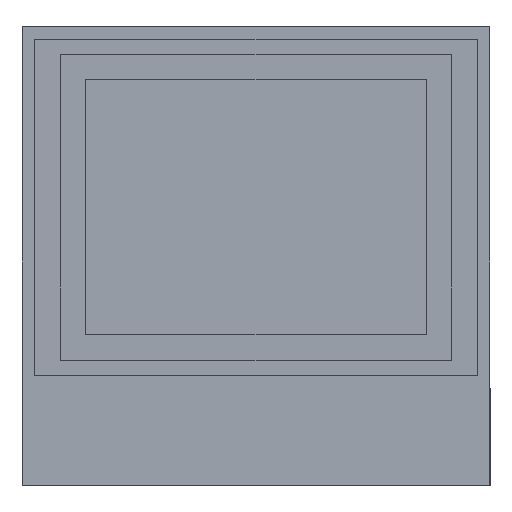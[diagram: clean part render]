
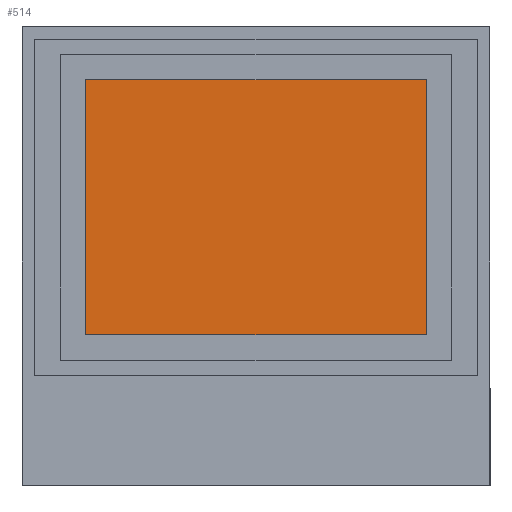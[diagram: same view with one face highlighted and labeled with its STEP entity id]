
A CAD part, top view. The second image highlights one B-rep face of the part: STEP entity #514.
In plain terms, the highlighted planar face has unit normal (0, 0, 1).
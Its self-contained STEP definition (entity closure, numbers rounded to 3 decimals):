
#7 = CARTESIAN_POINT ( 'NONE',  ( -6.71, 6.95, 1.26 ) ) ;
#18 = CARTESIAN_POINT ( 'NONE',  ( 6.71, 0., 1.26 ) ) ;
#26 = LINE ( 'NONE', #18, #472 ) ;
#100 = EDGE_CURVE ( 'NONE', #188, #296, #537, .T. ) ;
#169 = CARTESIAN_POINT ( 'NONE',  ( -6.71, -3.11, 1.26 ) ) ;
#188 = VERTEX_POINT ( 'NONE', #169 ) ;
#189 = DIRECTION ( 'NONE',  ( -1., 0., 0. ) ) ;
#192 = CARTESIAN_POINT ( 'NONE',  ( 0., 0., 1.26 ) ) ;
#230 = DIRECTION ( 'NONE',  ( 0., 1., 0. ) ) ;
#243 = VECTOR ( 'NONE', #230, 1000. ) ;
#253 = CARTESIAN_POINT ( 'NONE',  ( 6.71, 6.95, 1.26 ) ) ;
#264 = DIRECTION ( 'NONE',  ( 1., 0., 0. ) ) ;
#266 = EDGE_CURVE ( 'NONE', #1054, #361, #26, .T. ) ;
#296 = VERTEX_POINT ( 'NONE', #7 ) ;
#310 = LINE ( 'NONE', #452, #1100 ) ;
#352 = PLANE ( 'NONE',  #643 ) ;
#361 = VERTEX_POINT ( 'NONE', #1078 ) ;
#452 = CARTESIAN_POINT ( 'NONE',  ( 0., 6.95, 1.26 ) ) ;
#472 = VECTOR ( 'NONE', #978, 1000. ) ;
#514 = ADVANCED_FACE ( 'NONE', ( #1099 ), #352, .T. ) ;
#520 = VECTOR ( 'NONE', #189, 1000. ) ;
#537 = LINE ( 'NONE', #751, #243 ) ;
#548 = ORIENTED_EDGE ( 'NONE', *, *, #979, .F. ) ;
#607 = ORIENTED_EDGE ( 'NONE', *, *, #100, .F. ) ;
#625 = DIRECTION ( 'NONE',  ( 0., 0., 1. ) ) ;
#643 = AXIS2_PLACEMENT_3D ( 'NONE', #192, #625, #264 ) ;
#674 = EDGE_CURVE ( 'NONE', #296, #1054, #310, .T. ) ;
#751 = CARTESIAN_POINT ( 'NONE',  ( -6.71, 0., 1.26 ) ) ;
#759 = EDGE_LOOP ( 'NONE', ( #607, #548, #1010, #981 ) ) ;
#789 = CARTESIAN_POINT ( 'NONE',  ( 0., -3.11, 1.26 ) ) ;
#884 = DIRECTION ( 'NONE',  ( 1., 0., 0. ) ) ;
#936 = LINE ( 'NONE', #789, #520 ) ;
#978 = DIRECTION ( 'NONE',  ( 0., -1., 0. ) ) ;
#979 = EDGE_CURVE ( 'NONE', #361, #188, #936, .T. ) ;
#981 = ORIENTED_EDGE ( 'NONE', *, *, #674, .F. ) ;
#1010 = ORIENTED_EDGE ( 'NONE', *, *, #266, .F. ) ;
#1054 = VERTEX_POINT ( 'NONE', #253 ) ;
#1078 = CARTESIAN_POINT ( 'NONE',  ( 6.71, -3.11, 1.26 ) ) ;
#1099 = FACE_OUTER_BOUND ( 'NONE', #759, .T. ) ;
#1100 = VECTOR ( 'NONE', #884, 1000. ) ;
